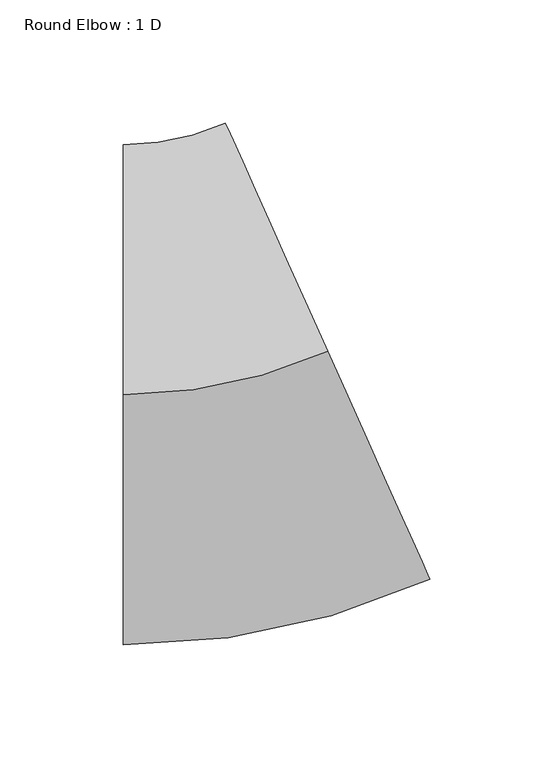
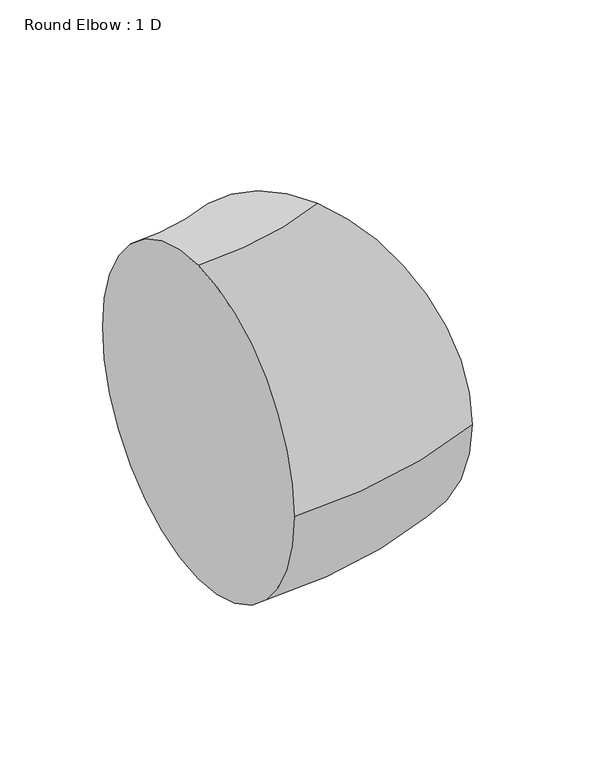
"""IFC4 building model written with IfcOpenShell, lengths in millimetres: duct fitting geometry, Round Elbow : 1 D."""

from ifc_helpers import new_model, si_unit, point, frame, origin, place, context, project, spatial, circle_curve, ellipse_curve, trimmed, source, transform, mapped, element, save
from ifc_brep_helpers import plane_surface, revolved_surface, advanced_brep


def round_elbow_1_d_20ab3410(model_context):
    return source(origin(), model_context, "Body", "AdvancedBrep", [
        advanced_brep(
        [(-43.4802105, 0.0, 101.6), (-43.4802105, 101.6, 0.0), (-43.4802105, 0.0, -101.6), (-43.4802105, -101.6, 0.0), (39.672933, 17.7928946, 101.6), (81.2495047, -74.9106581, 0.0), (39.672933, 17.7928946, -101.6), (-1.9036388, 110.4964473, 0.0)],
        [
            (0, 1, circle_curve(frame((-43.4802105, 0.0, 0.0), z_axis=(-1.0, 0.0, 0.0), x_axis=(0.0, 1.0, 0.0)), 101.6)),
            (1, 2, circle_curve(frame((-43.4802105, 0.0, 0.0), z_axis=(-1.0, 0.0, 0.0), x_axis=(0.0, 1.0, 0.0)), 101.6)),
            (2, 3, circle_curve(frame((-43.4802105, 0.0, 0.0), z_axis=(-1.0, 0.0, 0.0), x_axis=(0.0, 1.0, 0.0)), 101.6)),
            (3, 0, circle_curve(frame((-43.4802105, 0.0, 0.0), z_axis=(-1.0, 0.0, 0.0), x_axis=(0.0, 1.0, 0.0)), 101.6)),
            (4, 5, circle_curve(frame((39.672933, 17.7928946, 0.0), z_axis=(0.9124365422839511, 0.40921822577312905, 0.0), x_axis=(-0.40921822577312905, 0.9124365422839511, 0.0)), 101.6)),
            (5, 6, circle_curve(frame((39.672933, 17.7928946, 0.0), z_axis=(0.9124365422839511, 0.40921822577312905, 0.0), x_axis=(-0.40921822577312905, 0.9124365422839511, 0.0)), 101.6)),
            (6, 7, circle_curve(frame((39.672933, 17.7928946, 0.0), z_axis=(0.9124365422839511, 0.40921822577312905, 0.0), x_axis=(-0.40921822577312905, 0.9124365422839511, 0.0)), 101.6)),
            (7, 4, circle_curve(frame((39.672933, 17.7928946, 0.0), z_axis=(0.9124365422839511, 0.40921822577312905, 0.0), x_axis=(-0.40921822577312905, 0.9124365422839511, 0.0)), 101.6)),
            (7, 1, circle_curve(frame((-43.4802105, 203.2, 0.0), z_axis=(0.0, 0.0, -1.0), x_axis=(0.0, -1.0, 0.0)), 101.6)),
            (0, 4, circle_curve(frame((-43.4802105, 203.2, 101.6), z_axis=(0.0, 0.0, 1.0), x_axis=(0.0, -1.0, 0.0)), 203.2)),
            (6, 2, circle_curve(frame((-43.4802105, 203.2, -101.6), z_axis=(0.0, 0.0, -1.0), x_axis=(0.0, -1.0, 0.0)), 203.2)),
            (5, 3, circle_curve(frame((-43.4802105, 203.2, 0.0), z_axis=(0.0, 0.0, -1.0), x_axis=(0.0, -1.0, 0.0)), 304.8)),
        ],
        [
            plane_surface(frame((-43.4802105, 0.0, 0.0), z_axis=(-1.0, 0.0, 0.0), x_axis=(0.0, 0.0, 1.0))),
            plane_surface(frame((39.672933, 17.7928946, 0.0), z_axis=(0.9124365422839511, 0.409218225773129, 0.0), x_axis=(0.0, 0.0, 1.0))),
            revolved_surface(trimmed(ellipse_curve(frame((-43.4802105, 0.0, 0.0), z_axis=(-1.0, 0.0, 0.0), x_axis=(0.0, 1.0, 0.0)), 101.6, 101.6), [point((-43.4802105, 0.0, 101.6))], [point((-43.4802105, 101.6, 0.0))], True, "CARTESIAN"), (-43.4802105, 203.2, 0.0), (0.0, 0.0, 1.0)),
            revolved_surface(trimmed(ellipse_curve(frame((-43.4802105, 0.0, 0.0), z_axis=(-1.0, 0.0, 0.0), x_axis=(0.0, 1.0, 0.0)), 101.6, 101.6), [point((-43.4802105, 101.6, 0.0))], [point((-43.4802105, 0.0, -101.6))], True, "CARTESIAN"), (-43.4802105, 203.2, 0.0), (0.0, 0.0, 1.0)),
            revolved_surface(trimmed(ellipse_curve(frame((-43.4802105, 0.0, 0.0), z_axis=(-1.0, 0.0, 0.0), x_axis=(0.0, 1.0, 0.0)), 101.6, 101.6), [point((-43.4802105, 0.0, -101.6))], [point((-43.4802105, -101.6, 0.0))], True, "CARTESIAN"), (-43.4802105, 203.2, 0.0), (0.0, 0.0, 1.0)),
            revolved_surface(trimmed(ellipse_curve(frame((-43.4802105, 0.0, 0.0), z_axis=(-1.0, 0.0, 0.0), x_axis=(0.0, 1.0, 0.0)), 101.6, 101.6), [point((-43.4802105, -101.6, 0.0))], [point((-43.4802105, 0.0, 101.6))], True, "CARTESIAN"), (-43.4802105, 203.2, 0.0), (0.0, 0.0, 1.0)),
        ],
        [
            (0, [[1, 2, 3, 4]]),
            (1, [[5, 6, 7, 8]]),
            (2, [[9, -1, 10, -8]]),
            (3, [[11, -2, -9, -7]]),
            (4, [[12, -3, -11, -6]]),
            (5, [[-10, -4, -12, -5]]),
        ],
    ),
    ])


if __name__ == "__main__":
    model = new_model("IFC4")
    model_context = context("Model", 3, world=origin())
    ifc_project = project(units=[si_unit("LENGTHUNIT", "METRE", prefix="MILLI")], contexts=[model_context])
    site = spatial("IfcSite", under=ifc_project)
    building = spatial("IfcBuilding", under=site)
    placement = place(None, origin())
    round_elbow_1_d_shape = round_elbow_1_d_20ab3410(model_context)
    element("IfcDuctFitting", 1, ObjectType="Round Elbow : 1 D", at=placement, inside=building, context=model_context, shape_type="MappedRepresentation", body=[
        mapped(round_elbow_1_d_shape, transform((0.0, 0.0, 0.0), x_axis=(1.0, 0.0, 0.0), y_axis=(0.0, 1.0, 0.0), z_axis=(0.0, 0.0, 1.0))),
    ])
    save(model, "model.ifc")
